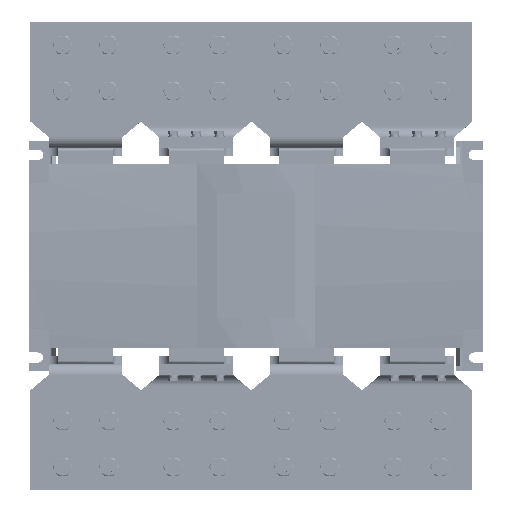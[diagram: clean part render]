
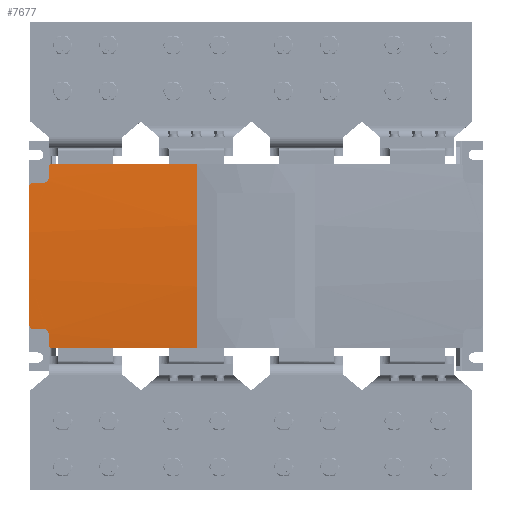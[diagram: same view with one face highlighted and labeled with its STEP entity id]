
A CAD part, top view. The second image highlights one B-rep face of the part: STEP entity #7677.
In plain terms, the highlighted cylindrical face has radius 1252 mm (diameter 2504 mm), a partial arc.
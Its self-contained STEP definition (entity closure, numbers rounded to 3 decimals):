
#6982=CARTESIAN_POINT('',(64.5,0.,-1228.));
#6983=DIRECTION('',(1.,0.,0.));
#6984=DIRECTION('',(0.,0.08,0.997));
#6985=AXIS2_PLACEMENT_3D('',#6982,#6983,#6984);
#6987=CARTESIAN_POINT('',(225.,97.,20.237));
#6988=CARTESIAN_POINT('',(225.,97.325,20.212));
#6989=CARTESIAN_POINT('',(224.901,97.939,20.164));
#6990=CARTESIAN_POINT('',(224.463,98.799,20.096));
#6991=CARTESIAN_POINT('',(223.792,99.468,20.043));
#6992=CARTESIAN_POINT('',(222.936,99.901,20.008));
#6993=CARTESIAN_POINT('',(222.324,100.,20.));
#6994=CARTESIAN_POINT('',(222.,100.,20.));
#6996=CARTESIAN_POINT('',(225.,0.,-1228.));
#6997=DIRECTION('',(1.,0.,0.));
#6998=DIRECTION('',(0.,0.077,0.997));
#6999=AXIS2_PLACEMENT_3D('',#6996,#6997,#6998);
#7001=DIRECTION('',(1.,0.,0.));
#7002=VECTOR('',#7001,11.5);
#7003=CARTESIAN_POINT('',(231.5,79.,21.505));
#7004=LINE('',#7003,#7002);
#7005=CARTESIAN_POINT('',(246.,76.,21.691));
#7006=CARTESIAN_POINT('',(246.,76.324,21.671));
#7007=CARTESIAN_POINT('',(245.901,76.938,21.634));
#7008=CARTESIAN_POINT('',(245.466,77.794,21.581));
#7009=CARTESIAN_POINT('',(244.797,78.465,21.539));
#7010=CARTESIAN_POINT('',(243.938,78.901,21.511));
#7011=CARTESIAN_POINT('',(243.324,79.,21.505));
#7012=CARTESIAN_POINT('',(243.,79.,21.505));
#7014=CARTESIAN_POINT('',(243.,-79.,21.505));
#7015=CARTESIAN_POINT('',(243.324,-79.,21.505));
#7016=CARTESIAN_POINT('',(243.938,-78.901,21.511));
#7017=CARTESIAN_POINT('',(244.797,-78.465,21.539));
#7018=CARTESIAN_POINT('',(245.466,-77.794,21.581));
#7019=CARTESIAN_POINT('',(245.901,-76.938,21.634));
#7020=CARTESIAN_POINT('',(246.,-76.324,21.671));
#7021=CARTESIAN_POINT('',(246.,-76.,21.691));
#7023=DIRECTION('',(1.,0.,0.));
#7024=VECTOR('',#7023,11.5);
#7025=CARTESIAN_POINT('',(231.5,-79.,21.505));
#7026=LINE('',#7025,#7024);
#7027=CARTESIAN_POINT('',(225.,0.,-1228.));
#7028=DIRECTION('',(1.,0.,0.));
#7029=DIRECTION('',(0.,-0.068,0.998));
#7030=AXIS2_PLACEMENT_3D('',#7027,#7028,#7029);
#7032=CARTESIAN_POINT('',(222.,-100.,20.));
#7033=CARTESIAN_POINT('',(222.324,-100.,20.));
#7034=CARTESIAN_POINT('',(222.936,-99.901,20.008));
#7035=CARTESIAN_POINT('',(223.792,-99.468,20.043));
#7036=CARTESIAN_POINT('',(224.463,-98.799,20.096));
#7037=CARTESIAN_POINT('',(224.901,-97.939,20.164));
#7038=CARTESIAN_POINT('',(225.,-97.325,20.212));
#7039=CARTESIAN_POINT('',(225.,-97.,20.237));
#7117=DIRECTION('',(1.,0.,0.));
#7118=VECTOR('',#7117,157.5);
#7119=CARTESIAN_POINT('',(64.5,-100.,20.));
#7120=LINE('',#7119,#7118);
#7162=DIRECTION('',(1.,0.,0.));
#7163=VECTOR('',#7162,157.5);
#7164=CARTESIAN_POINT('',(64.5,100.,20.));
#7165=LINE('',#7164,#7163);
#7249=CARTESIAN_POINT('',(231.5,79.,21.505));
#7250=CARTESIAN_POINT('',(230.941,79.,21.505));
#7251=CARTESIAN_POINT('',(229.816,79.143,21.496));
#7252=CARTESIAN_POINT('',(228.202,79.811,21.454));
#7253=CARTESIAN_POINT('',(226.856,80.85,21.387));
#7254=CARTESIAN_POINT('',(225.815,82.194,21.299));
#7255=CARTESIAN_POINT('',(225.143,83.814,21.192));
#7256=CARTESIAN_POINT('',(225.,84.94,21.115));
#7257=CARTESIAN_POINT('',(225.,85.5,21.077));
#7280=CARTESIAN_POINT('',(225.,-85.5,21.077));
#7281=CARTESIAN_POINT('',(225.,-84.94,21.116));
#7282=CARTESIAN_POINT('',(225.144,-83.813,21.192));
#7283=CARTESIAN_POINT('',(225.813,-82.198,21.299));
#7284=CARTESIAN_POINT('',(226.853,-80.853,21.387));
#7285=CARTESIAN_POINT('',(228.198,-79.813,21.454));
#7286=CARTESIAN_POINT('',(229.817,-79.142,21.496));
#7287=CARTESIAN_POINT('',(230.941,-79.,21.505));
#7288=CARTESIAN_POINT('',(231.5,-79.,21.505));
#7311=CARTESIAN_POINT('',(246.,0.,-1228.));
#7312=DIRECTION('',(1.,0.,0.));
#7313=DIRECTION('',(0.,0.061,0.998));
#7314=AXIS2_PLACEMENT_3D('',#7311,#7312,#7313);
#7422=CARTESIAN_POINT('',(231.5,79.,21.505));
#7424=VERTEX_POINT('',#7422);
#7426=CARTESIAN_POINT('',(225.,85.5,21.077));
#7428=VERTEX_POINT('',#7426);
#7430=CARTESIAN_POINT('',(225.,-85.5,21.077));
#7432=VERTEX_POINT('',#7430);
#7434=CARTESIAN_POINT('',(231.5,-79.,21.505));
#7436=VERTEX_POINT('',#7434);
#7454=VERTEX_POINT('',#7005);
#7455=VERTEX_POINT('',#7012);
#7464=CARTESIAN_POINT('',(225.,97.,20.237));
#7465=VERTEX_POINT('',#7464);
#7466=VERTEX_POINT('',#6994);
#7467=VERTEX_POINT('',#7032);
#7468=VERTEX_POINT('',#7039);
#7477=CARTESIAN_POINT('',(243.,-79.,21.505));
#7478=VERTEX_POINT('',#7477);
#7479=VERTEX_POINT('',#7021);
#7506=CARTESIAN_POINT('',(64.5,100.,20.));
#7507=CARTESIAN_POINT('',(64.5,-100.,20.));
#7508=VERTEX_POINT('',#7506);
#7509=VERTEX_POINT('',#7507);
#7643=CARTESIAN_POINT('',(246.,0.,-1228.));
#7644=DIRECTION('',(1.,0.,0.));
#7645=DIRECTION('',(0.,1.,0.));
#7646=AXIS2_PLACEMENT_3D('',#7643,#7644,#7645);
#7647=CYLINDRICAL_SURFACE('',#7646,1252.);
#7649=ORIENTED_EDGE('',*,*,#7648,.F.);
#7651=ORIENTED_EDGE('',*,*,#7650,.T.);
#7653=ORIENTED_EDGE('',*,*,#7652,.F.);
#7655=ORIENTED_EDGE('',*,*,#7654,.T.);
#7657=ORIENTED_EDGE('',*,*,#7656,.F.);
#7659=ORIENTED_EDGE('',*,*,#7658,.T.);
#7660=ORIENTED_EDGE('',*,*,#7633,.F.);
#7662=ORIENTED_EDGE('',*,*,#7661,.T.);
#7664=ORIENTED_EDGE('',*,*,#7663,.F.);
#7666=ORIENTED_EDGE('',*,*,#7665,.F.);
#7668=ORIENTED_EDGE('',*,*,#7667,.F.);
#7670=ORIENTED_EDGE('',*,*,#7669,.T.);
#7672=ORIENTED_EDGE('',*,*,#7671,.F.);
#7674=ORIENTED_EDGE('',*,*,#7673,.F.);
#7675=EDGE_LOOP('',(#7649,#7651,#7653,#7655,#7657,#7659,#7660,#7662,#7664,#7666,
#7668,#7670,#7672,#7674));
#7676=FACE_OUTER_BOUND('',#7675,.F.);
#7677=ADVANCED_FACE('',(#7676),#7647,.T.);
#6986=CIRCLE('',#6985,1252.);
#6995=B_SPLINE_CURVE_WITH_KNOTS('',3,(#6987,#6988,#6989,#6990,#6991,#6992,#6993,
#6994),.UNSPECIFIED.,.F.,.F.,(4,1,1,1,1,4),(0.,0.2,0.4,0.6,0.8,1.),
.UNSPECIFIED.);
#7000=CIRCLE('',#6999,1252.);
#7013=B_SPLINE_CURVE_WITH_KNOTS('',3,(#7005,#7006,#7007,#7008,#7009,#7010,#7011,
#7012),.UNSPECIFIED.,.F.,.F.,(4,1,1,1,1,4),(0.,0.2,0.4,0.6,0.8,1.),
.UNSPECIFIED.);
#7022=B_SPLINE_CURVE_WITH_KNOTS('',3,(#7014,#7015,#7016,#7017,#7018,#7019,#7020,
#7021),.UNSPECIFIED.,.F.,.F.,(4,1,1,1,1,4),(0.,0.2,0.4,0.6,0.8,1.),
.UNSPECIFIED.);
#7031=CIRCLE('',#7030,1252.);
#7040=B_SPLINE_CURVE_WITH_KNOTS('',3,(#7032,#7033,#7034,#7035,#7036,#7037,#7038,
#7039),.UNSPECIFIED.,.F.,.F.,(4,1,1,1,1,4),(0.,0.2,0.4,0.6,0.8,1.),
.UNSPECIFIED.);
#7258=B_SPLINE_CURVE_WITH_KNOTS('',3,(#7249,#7250,#7251,#7252,#7253,#7254,#7255,
#7256,#7257),.UNSPECIFIED.,.F.,.F.,(4,1,1,1,1,1,4),(0.,0.167,
0.333,0.5,0.667,0.833,1.),
.UNSPECIFIED.);
#7289=B_SPLINE_CURVE_WITH_KNOTS('',3,(#7280,#7281,#7282,#7283,#7284,#7285,#7286,
#7287,#7288),.UNSPECIFIED.,.F.,.F.,(4,1,1,1,1,1,4),(0.,0.167,
0.333,0.5,0.667,0.833,1.),
.UNSPECIFIED.);
#7315=CIRCLE('',#7314,1252.);
#7633=EDGE_CURVE('',#7454,#7455,#7013,.T.);
#7648=EDGE_CURVE('',#7508,#7509,#6986,.T.);
#7650=EDGE_CURVE('',#7508,#7466,#7165,.T.);
#7652=EDGE_CURVE('',#7465,#7466,#6995,.T.);
#7654=EDGE_CURVE('',#7465,#7428,#7000,.T.);
#7656=EDGE_CURVE('',#7424,#7428,#7258,.T.);
#7658=EDGE_CURVE('',#7424,#7455,#7004,.T.);
#7661=EDGE_CURVE('',#7454,#7479,#7315,.T.);
#7663=EDGE_CURVE('',#7478,#7479,#7022,.T.);
#7665=EDGE_CURVE('',#7436,#7478,#7026,.T.);
#7667=EDGE_CURVE('',#7432,#7436,#7289,.T.);
#7669=EDGE_CURVE('',#7432,#7468,#7031,.T.);
#7671=EDGE_CURVE('',#7467,#7468,#7040,.T.);
#7673=EDGE_CURVE('',#7509,#7467,#7120,.T.);
